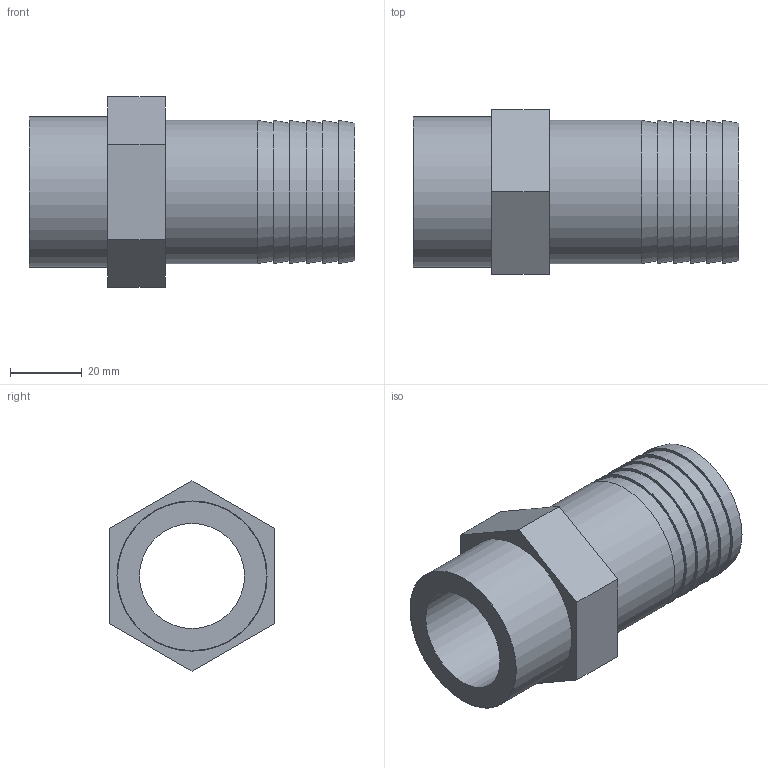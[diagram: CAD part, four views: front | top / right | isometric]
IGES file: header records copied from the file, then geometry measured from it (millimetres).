
Global section: file name: 053601040013.ipt; native system: Autodesk Inventor 2015; preprocessor: unknown; author: KIM; date: 20171207.165531; units: millimetre
Bounding box: 91 x 46 x 53.12 mm (x, y, z)
Volume: 63400.6 mm3; surface area: 23177.9 mm2
Topology: 1 solids, 1 shells, 25 faces, 50 edges, 34 vertices
Faces by surface type: plane 15, cone 6, revolution 2, cylinder 2
Full cylindrical faces by diameter (mm): 40 x1, 41.91 x1
